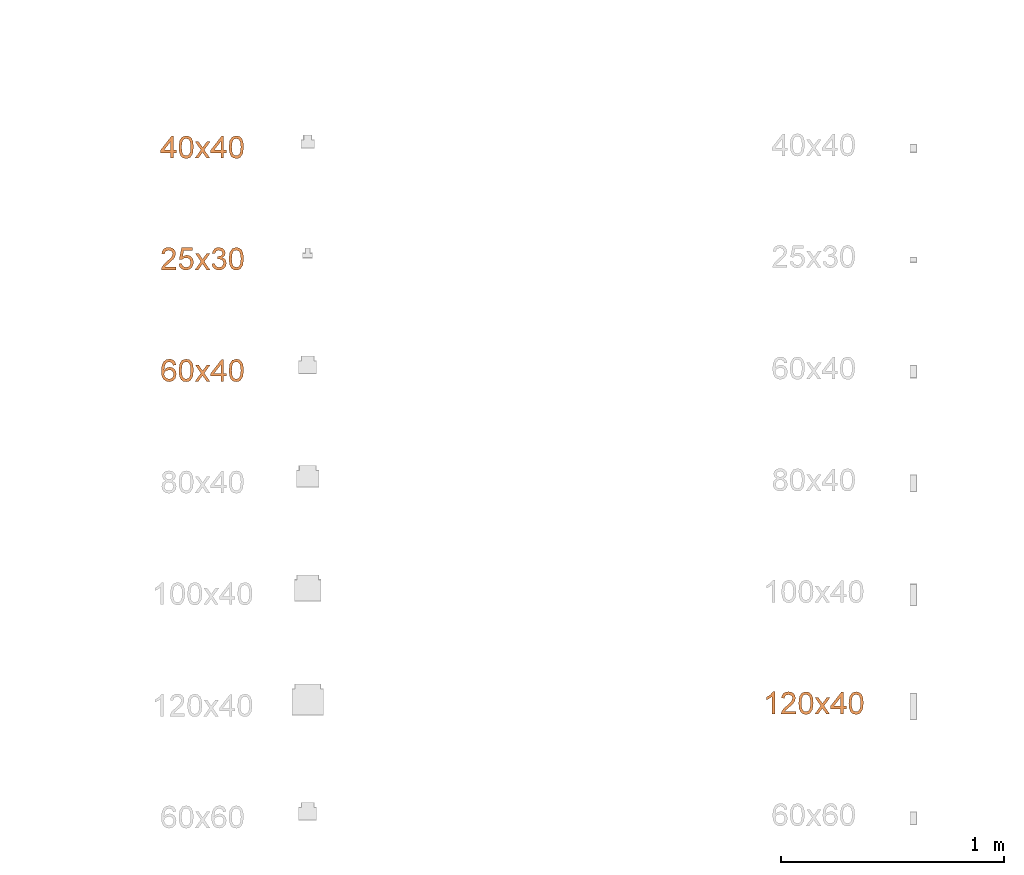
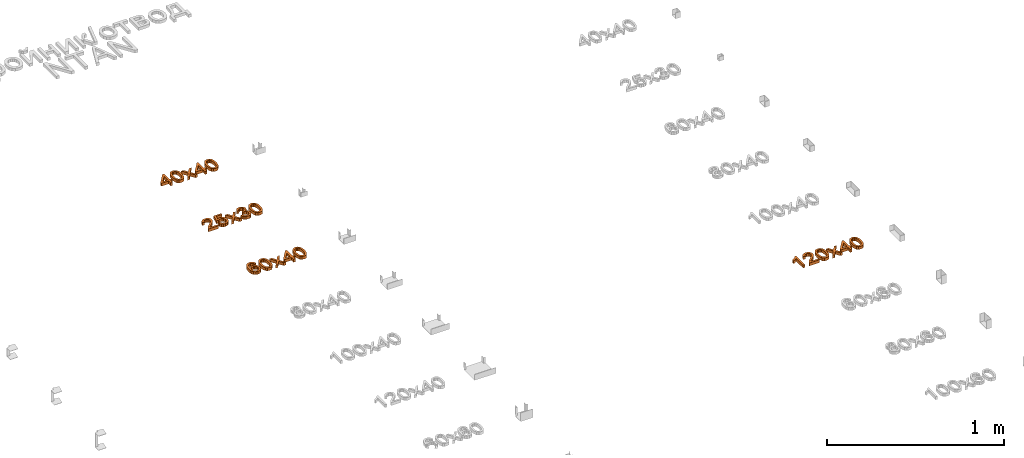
# One storey, part 63 of 71: 4 proxies.
"""IFC2X3 building model written with IfcOpenShell, lengths in millimetres."""

from ifc_helpers import new_model, entity, si_unit, converted_unit, derived_unit, direction, frame, origin, place, context, subcontext, project, spatial, polyline, outline, extrude, element, save


model = new_model("IFC2X3")

# Units and contexts
model_context = context("Model", 3, precision=0.01, world=origin(), true_north=direction((6.12303176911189e-17, 1.0)))
body_context = subcontext(model_context, "Body", "Model", "MODEL_VIEW")
ifc_project = project(units=[si_unit("LENGTHUNIT", "METRE", prefix="MILLI"), si_unit("AREAUNIT", "SQUARE_METRE"), si_unit("VOLUMEUNIT", "CUBIC_METRE"), converted_unit("PLANEANGLEUNIT", "DEGREE", entity("IfcRatioMeasure", 0.0174532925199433), si_unit("PLANEANGLEUNIT", "RADIAN"), dimensions=[0, 0, 0, 0, 0, 0, 0]), si_unit("MASSUNIT", "GRAM", prefix="KILO"), derived_unit("MASSDENSITYUNIT", [(si_unit("MASSUNIT", "GRAM", prefix="KILO"), 1), (si_unit("LENGTHUNIT", "METRE"), -3)]), si_unit("TIMEUNIT", "SECOND"), si_unit("FREQUENCYUNIT", "HERTZ"), si_unit("THERMODYNAMICTEMPERATUREUNIT", "DEGREE_CELSIUS"), derived_unit("THERMALTRANSMITTANCEUNIT", [(si_unit("MASSUNIT", "GRAM", prefix="KILO"), 1), (si_unit("THERMODYNAMICTEMPERATUREUNIT", "KELVIN"), -1), (si_unit("TIMEUNIT", "SECOND"), -3)]), derived_unit("VOLUMETRICFLOWRATEUNIT", [(si_unit("LENGTHUNIT", "METRE"), 3), (si_unit("TIMEUNIT", "SECOND"), -1)]), si_unit("ELECTRICCURRENTUNIT", "AMPERE"), si_unit("ELECTRICVOLTAGEUNIT", "VOLT"), si_unit("POWERUNIT", "WATT"), si_unit("FORCEUNIT", "NEWTON", prefix="KILO"), si_unit("ILLUMINANCEUNIT", "LUX"), si_unit("LUMINOUSFLUXUNIT", "LUMEN"), si_unit("LUMINOUSINTENSITYUNIT", "CANDELA"), derived_unit("USERDEFINED", [(si_unit("MASSUNIT", "GRAM", prefix="KILO"), -1), (si_unit("LENGTHUNIT", "METRE"), -2), (si_unit("TIMEUNIT", "SECOND"), 3), (si_unit("LUMINOUSFLUXUNIT", "LUMEN"), 1)]), derived_unit("LINEARVELOCITYUNIT", [(si_unit("LENGTHUNIT", "METRE"), 1), (si_unit("TIMEUNIT", "SECOND"), -1)]), si_unit("PRESSUREUNIT", "PASCAL"), derived_unit("USERDEFINED", [(si_unit("LENGTHUNIT", "METRE"), -2), (si_unit("MASSUNIT", "GRAM", prefix="KILO"), 1), (si_unit("TIMEUNIT", "SECOND"), -2)])], contexts=[model_context])

# Site, building, storey
site_placement = place(None, origin())
site = spatial("IfcSite", under=ifc_project, at=site_placement, Name="Default", CompositionType="ELEMENT")
building_placement = place(site_placement, origin())
building = spatial("IfcBuilding", under=site, at=building_placement, Name="Наименование здания", CompositionType="ELEMENT")
storey_placement = place(building_placement, origin())
storey = spatial("IfcBuildingStorey", under=building, at=storey_placement, Name="Этаж 01", CompositionType="ELEMENT", Elevation=0.0)

# Proxies
proxy_1_placement = place(storey_placement, origin())
element("IfcBuildingElementProxy", 1, at=proxy_1_placement, inside=storey, Name="Текст модели:100 мм Arial", ObjectType="Текст модели:100 мм Arial", context=body_context, shape_type="SweptSolid", body=[
    extrude(outline(polyline([(-1.14154897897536, -36.3868737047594), (11.4154897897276, -36.3868737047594), (11.4154897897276, -12.8424260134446), (23.9725285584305, -12.8424260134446), (23.9725285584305, -0.285387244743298), (11.4154897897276, -0.285387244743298), (11.4154897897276, 62.4998065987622), (1.99771071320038, 62.4998065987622), (-46.6608145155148, -0.285387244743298), (-46.6608145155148, -12.8424260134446), (-1.14154897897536, -12.8424260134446), (-1.14154897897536, -36.3868737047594)]), holes=[polyline([(-1.14154897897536, -0.285387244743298), (-31.2097707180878, -0.285387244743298), (-1.14154897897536, 38.5139005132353), (-1.14154897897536, -0.285387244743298)])]), frame((21260.8514616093, 3073.05161790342, 0.0)), (0.0, 0.0, 1.0), 20.0),
    extrude(outline(polyline([(-7.02884310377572, -33.3490673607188), (17.532380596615, -33.3490673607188), (35.1984171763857, -27.6137612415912), (43.3439841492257, -18.487651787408), (47.0516941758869, -5.75150665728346), (46.7162020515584, 4.48638208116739), (43.4465778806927, 13.0955287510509), (27.9444305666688, 25.6659118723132), (-0.31433837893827, 32.2325535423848), (-24.0296505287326, 32.3678288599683), (-39.4143020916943, 28.0260881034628), (-49.7293680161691, 18.9002174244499), (-54.443671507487, 4.63998875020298), (-50.8676582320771, -14.1301059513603), (-35.4058547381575, -26.7333390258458), (-7.02884310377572, -33.3490673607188)]), holes=[polyline([(-5.77428774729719, -20.8548320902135), (-25.0157644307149, -17.3562860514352), (-36.7257089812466, -11.57179224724), (-41.0962588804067, -4.77599682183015), (-41.9669219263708, 3.21464792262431), (-39.224425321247, 11.2791292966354), (-32.8654063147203, 17.2229259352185), (-20.9698370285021, 20.2947501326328), (-1.61768958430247, 19.7433141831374), (17.8514140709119, 16.2707701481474), (28.7803640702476, 10.7141596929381), (33.5546988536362, 3.61815959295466), (34.55995686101, -4.47255337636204), (31.9421230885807, -12.1923199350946), (25.8471825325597, -18.1754808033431), (14.0250679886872, -21.4027476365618), (-5.77428774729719, -20.8548320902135)])]), frame((21329.7029366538, 3082.487921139, 0.0), z_axis=(0.0, 0.0, 1.0), x_axis=(0.101851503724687, -0.994799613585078, 0.0)), (0.0, 0.0, 1.0), 20.0),
    extrude(outline(polyline([(-34.5302215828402, -38.4265006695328), (-19.4225343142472, -38.4265006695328), (-0.341721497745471, -12.0616243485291), (2.47870713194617, -16.1328517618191), (17.8561745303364, -38.4265006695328), (32.9638617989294, -38.4265006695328), (7.40832586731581, -1.34399555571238), (33.9448804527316, 35.3461020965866), (18.8371931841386, 35.3461020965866), (4.95577923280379, 16.1671874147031), (0.0261604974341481, 9.34910777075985), (-5.66374769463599, 17.6877663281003), (-17.8529044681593, 35.3461020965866), (-32.9605917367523, 35.3461020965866), (-7.69936140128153, -1.34399555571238), (-34.5302215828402, -38.4265006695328)])), frame((21402.5445935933, 3075.09124486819, 0.0)), (0.0, 0.0, 1.0), 20.0),
    extrude(outline(polyline([(-1.14154897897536, -36.3868737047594), (11.4154897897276, -36.3868737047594), (11.4154897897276, -12.8424260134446), (23.9725285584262, -12.8424260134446), (23.9725285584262, -0.285387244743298), (11.4154897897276, -0.285387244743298), (11.4154897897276, 62.4998065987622), (1.99771071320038, 62.4998065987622), (-46.6608145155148, -0.285387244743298), (-46.6608145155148, -12.8424260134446), (-1.14154897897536, -12.8424260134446), (-1.14154897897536, -36.3868737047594)]), holes=[polyline([(-1.14154897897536, -0.285387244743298), (-31.2097707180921, -0.285387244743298), (-1.14154897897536, 38.5139005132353), (-1.14154897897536, -0.285387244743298)])]), frame((21485.3085295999, 3073.05161790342, 0.0)), (0.0, 0.0, 1.0), 20.0),
    extrude(outline(polyline([(-7.02884310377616, -33.3490673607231), (17.5323805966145, -33.3490673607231), (35.1984171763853, -27.6137612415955), (43.3439841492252, -18.4876517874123), (47.0516941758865, -5.75150665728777), (46.716202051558, 4.48638208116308), (43.4465778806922, 13.0955287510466), (27.9444305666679, 25.6659118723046), (-0.314338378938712, 32.2325535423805), (-24.0296505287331, 32.367828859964), (-39.4143020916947, 28.0260881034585), (-49.7293680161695, 18.9002174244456), (-54.4436715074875, 4.63998875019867), (-50.8676582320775, -14.1301059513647), (-35.405854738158, -26.7333390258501), (-7.02884310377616, -33.3490673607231)]), holes=[polyline([(-5.77428774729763, -20.8548320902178), (-25.0157644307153, -17.3562860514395), (-36.7257089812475, -11.5717922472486), (-41.0962588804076, -4.77599682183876), (-41.9669219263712, 3.21464792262), (-39.2244253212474, 11.2791292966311), (-32.8654063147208, 17.2229259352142), (-20.9698370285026, 20.2947501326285), (-1.61768958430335, 19.7433141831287), (17.8514140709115, 16.2707701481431), (28.7803640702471, 10.7141596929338), (33.5546988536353, 3.61815959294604), (34.5599568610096, -4.47255337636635), (31.9421230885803, -12.192319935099), (25.8471825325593, -18.1754808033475), (14.0250679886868, -21.4027476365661), (-5.77428774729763, -20.8548320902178)])]), frame((21554.1600046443, 3082.487921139, 0.0), z_axis=(0.0, 0.0, 1.0), x_axis=(0.101851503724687, -0.994799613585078, 0.0)), (0.0, 0.0, 1.0), 20.0),
])
proxy_2_placement = place(storey_placement, origin())
element("IfcBuildingElementProxy", 2, at=proxy_2_placement, inside=storey, Name="Текст модели:100 мм Arial", ObjectType="Текст модели:100 мм Arial", context=body_context, shape_type="SweptSolid", body=[
    extrude(outline(polyline([(-32.3858783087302, -45.1669477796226), (-32.3858783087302, -57.7239865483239), (33.5385752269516, -57.7239865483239), (32.1896745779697, -49.0664969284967), (24.5622545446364, -35.7369059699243), (8.84143061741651, -21.1810416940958), (-12.8390816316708, -0.260818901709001), (-18.2592096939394, 13.9639515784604), (-13.1456499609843, 25.4786580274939), (0.208466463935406, 30.1752848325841), (14.1266686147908, 25.5890226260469), (19.4119066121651, 12.9093565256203), (31.9689453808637, 14.4789863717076), (28.9247218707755, 26.6252235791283), (22.3426998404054, 35.4973110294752), (12.5662358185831, 40.9235704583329), (-0.0613136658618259, 42.7323236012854), (-12.7808336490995, 40.7212353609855), (-22.5389035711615, 34.6879706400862), (-28.746912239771, 25.6748617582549), (-30.8162484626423, 14.7242410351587), (-28.5844310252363, 2.81712712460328), (-21.1654774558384, -9.49465698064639), (-3.17604789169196, -26.6992716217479), (11.2694517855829, -38.7780637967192), (16.9348345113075, -45.1669477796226), (-32.3858783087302, -45.1669477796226)])), frame((21250.8684820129, 2594.38873074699, 0.0), z_axis=(0.0, 0.0, -1.0), x_axis=(-1.0, 0.0, 0.0)), (0.0, 0.0, -1.0), 20.0),
    extrude(outline(polyline([(3.81439562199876, -37.2548959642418), (15.7323946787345, -37.2548959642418), (26.1588137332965, -33.0579698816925), (34.2921694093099, -25.0537205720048), (39.3309783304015, -13.63175089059), (40.2219288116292, 1.43409098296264), (34.3991305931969, 14.6815107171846), (25.5350217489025, 23.1481891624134), (13.9054384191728, 28.2770976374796), (0.912111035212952, 29.4702838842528), (-10.7159258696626, 25.7768606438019), (-19.7427074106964, 18.0989984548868), (-24.9322687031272, 7.33886785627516), (-25.5937300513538, -2.21124798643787), (-22.6370240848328, -12.2793380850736), (-47.9924930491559, 0.0204883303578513), (-38.0977082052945, 37.2324069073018), (-50.2330599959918, 40.4592412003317), (-62.7370428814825, -6.56524698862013), (-15.5021967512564, -30.4943712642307), (-10.7584434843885, -18.76237376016), (-14.4216298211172, -10.4922324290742), (-13.6981616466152, 0.722667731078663), (-9.98738154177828, 9.35727561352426), (-4.32553373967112, 14.6878856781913), (11.4370636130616, 15.9400687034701), (19.7481682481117, 12.2772427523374), (25.4355726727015, 6.40632241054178), (28.0665145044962, -1.27212018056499), (27.2082313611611, -10.3575128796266), (19.6530635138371, -21.9256319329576), (5.52431094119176, -24.7161898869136), (3.81439562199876, -37.2548959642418)])), frame((21330.835010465, 2576.60829824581, 0.0), z_axis=(0.0, 0.0, 1.0), x_axis=(0.256974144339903, -0.966418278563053, 0.0)), (0.0, 0.0, 1.0), 20.0),
    extrude(outline(polyline([(-34.5302215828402, -38.4265006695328), (-19.4225343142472, -38.4265006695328), (-0.341721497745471, -12.0616243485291), (2.47870713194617, -16.1328517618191), (17.8561745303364, -38.4265006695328), (32.9638617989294, -38.4265006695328), (7.40832586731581, -1.34399555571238), (33.9448804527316, 35.3461020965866), (18.8371931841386, 35.3461020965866), (4.95577923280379, 16.1671874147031), (0.0261604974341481, 9.34910777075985), (-5.66374769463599, 17.6877663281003), (-17.8529044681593, 35.3461020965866), (-32.9605917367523, 35.3461020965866), (-7.69936140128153, -1.34399555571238), (-34.5302215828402, -38.4265006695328)])), frame((21402.5445935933, 2575.09124486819, 0.0)), (0.0, 0.0, 1.0), 20.0),
    extrude(outline(polyline([(12.9398224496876, -39.4228746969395), (24.7070155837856, -39.4228746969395), (35.2334179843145, -35.1796885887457), (43.5392113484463, -27.2068749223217), (48.6445773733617, -16.0179922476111), (49.9667297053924, -2.46420805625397), (46.1713151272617, 9.8594240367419), (38.2123508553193, 19.5155094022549), (27.0438541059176, 25.0666534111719), (10.0202742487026, 24.7454624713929), (-1.87398827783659, 13.8140826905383), (-7.17156856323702, 25.945232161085), (-17.4163250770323, 32.3622268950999), (-30.6023287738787, 32.1723416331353), (-42.4844766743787, 24.4416767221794), (-49.8086882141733, 10.7455169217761), (-51.0194511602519, -0.289536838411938), (-48.3411699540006, -10.3555163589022), (-41.9598673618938, -18.9246782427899), (-32.0615661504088, -25.4692790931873), (-27.230437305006, -13.7729910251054), (-36.9582136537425, -4.72585730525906), (-37.5811201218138, 7.85403171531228), (-30.7090409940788, 18.2284262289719), (-20.0239599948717, 20.0569105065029), (-14.1616694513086, 16.8110341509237), (-11.0038541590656, 11.0256101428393), (-11.2910014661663, -3.66989129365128), (-11.9642066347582, -5.57066078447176), (-0.222565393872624, -10.2362102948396), (0.778769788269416, -1.38153044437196), (9.50511511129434, 11.0278528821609), (23.513705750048, 13.0140189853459), (35.3107062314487, 3.90868905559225), (37.5820165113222, -3.60465058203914), (36.6502541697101, -12.274956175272), (29.3231481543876, -23.7071568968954), (14.7432148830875, -26.8972714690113), (12.9398224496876, -39.4228746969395)])), frame((21477.9605854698, 2586.24313576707, 0.0), z_axis=(0.0, 0.0, 1.0), x_axis=(0.264175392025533, -0.964474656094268, 0.0)), (0.0, 0.0, 1.0), 20.0),
    extrude(outline(polyline([(-7.02884310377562, -33.3490673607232), (17.5323805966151, -33.3490673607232), (35.1984171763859, -27.6137612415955), (43.3439841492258, -18.4876517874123), (47.051694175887, -5.75150665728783), (46.7162020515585, 4.48638208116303), (43.4465778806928, 13.0955287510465), (27.9444305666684, 25.6659118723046), (-0.314338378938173, 32.2325535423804), (-24.0296505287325, 32.367828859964), (-39.4143020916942, 28.0260881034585), (-49.729368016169, 18.9002174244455), (-54.4436715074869, 4.63998875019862), (-50.867658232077, -14.1301059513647), (-35.4058547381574, -26.7333390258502), (-7.02884310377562, -33.3490673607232)]), holes=[polyline([(-5.77428774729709, -20.8548320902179), (-25.0157644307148, -17.3562860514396), (-36.7257089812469, -11.5717922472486), (-41.096258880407, -4.77599682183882), (-41.9669219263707, 3.21464792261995), (-39.2244253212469, 11.2791292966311), (-32.8654063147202, 17.2229259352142), (-20.969837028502, 20.2947501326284), (-1.61768958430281, 19.7433141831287), (17.851414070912, 16.270770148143), (28.7803640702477, 10.7141596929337), (33.5546988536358, 3.61815959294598), (34.5599568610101, -4.47255337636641), (31.9421230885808, -12.192319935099), (25.8471825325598, -18.1754808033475), (14.0250679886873, -21.4027476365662), (-5.77428774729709, -20.8548320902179)])]), frame((21554.1600046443, 2582.487921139, 0.0), z_axis=(0.0, 0.0, 1.0), x_axis=(0.101851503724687, -0.994799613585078, 0.0)), (0.0, 0.0, 1.0), 20.0),
])
proxy_3_placement = place(storey_placement, origin())
element("IfcBuildingElementProxy", 3, at=proxy_3_placement, inside=storey, Name="Текст модели:100 мм Arial", ObjectType="Текст модели:100 мм Arial", context=body_context, shape_type="SweptSolid", body=[
    extrude(outline(polyline([(6.79275401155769, -32.502776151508), (18.3659045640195, -32.502776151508), (28.1525204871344, -28.8011371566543), (35.6312934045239, -21.7178704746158), (40.2809149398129, -11.5729874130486), (41.4130789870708, 3.23667074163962), (36.1391243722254, 16.3729018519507), (21.8599739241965, 28.880326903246), (-1.50836821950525, 38.2054593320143), (-23.6059131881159, 41.7609274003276), (-39.9814227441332, 38.5965283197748), (-51.1650797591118, 29.9216784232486), (-57.6870671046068, 16.9457940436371), (-57.9805556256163, -0.0494879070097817), (-49.2081886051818, -14.3141019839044), (-33.6167855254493, -22.9350568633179), (-20.6265742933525, -24.2502330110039), (-8.97800352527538, -20.6254922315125), (0.0919027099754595, -13.0350962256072), (5.34612034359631, -2.45330669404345), (5.85483161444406, 11.6447254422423), (-0.843339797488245, 24.991063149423), (19.7707676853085, 15.5765036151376), (28.4840991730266, 4.26766164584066), (28.389351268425, -7.46374532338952), (19.9956250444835, -18.1936336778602), (8.63303585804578, -19.982539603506), (6.79275401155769, -32.502776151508)]), holes=[polyline([(-18.758671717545, 29.9549594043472), (-11.6328110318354, 26.3613362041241), (-6.94154076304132, 20.2038317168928), (-5.85783236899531, 4.13761066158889), (-9.48331864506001, -3.95286412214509), (-15.107739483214, -9.26901644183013), (-22.3091633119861, -11.5969098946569), (-30.6656585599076, -10.7226080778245), (-38.6094491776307, -7.06141592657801), (-43.8637090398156, -1.22509865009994), (-46.1835287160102, 6.17768396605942), (-45.3239987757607, 14.5382721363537), (-39.6901171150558, 24.7221971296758), (-30.0168134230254, 30.0585493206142), (-18.758671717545, 29.9549594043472)])]), frame((21253.7454554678, 2095.21248246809, 0.0), z_axis=(0.0, 0.0, 1.0), x_axis=(-0.267015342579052, 0.963692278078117, 0.0)), (0.0, 0.0, 1.0), 20.0),
    extrude(outline(polyline([(-7.02884310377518, -33.3490673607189), (17.5323805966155, -33.3490673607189), (35.1984171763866, -27.6137612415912), (43.3439841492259, -18.487651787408), (47.0516941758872, -5.75150665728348), (46.716202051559, 4.48638208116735), (43.4465778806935, 13.0955287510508), (27.944430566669, 25.6659118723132), (-0.314338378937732, 32.2325535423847), (-24.0296505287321, 32.3678288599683), (-39.4143020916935, 28.0260881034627), (-49.7293680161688, 18.9002174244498), (-54.4436715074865, 4.63998875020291), (-50.8676582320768, -14.1301059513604), (-35.4058547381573, -26.7333390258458), (-7.02884310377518, -33.3490673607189)]), holes=[polyline([(-5.77428774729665, -20.8548320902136), (-25.0157644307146, -17.3562860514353), (-36.7257089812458, -11.5717922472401), (-41.0962588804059, -4.77599682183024), (-41.9669219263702, 3.21464792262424), (-39.2244253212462, 11.2791292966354), (-32.8654063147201, 17.2229259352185), (-20.9698370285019, 20.2947501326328), (-1.61768958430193, 19.7433141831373), (17.8514140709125, 16.2707701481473), (28.7803640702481, 10.714159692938), (33.554698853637, 3.61815959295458), (34.5599568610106, -4.47255337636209), (31.9421230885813, -12.1923199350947), (25.8471825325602, -18.1754808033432), (14.0250679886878, -21.4027476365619), (-5.77428774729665, -20.8548320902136)])]), frame((21329.7029366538, 2082.487921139, 0.0), z_axis=(0.0, 0.0, 1.0), x_axis=(0.101851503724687, -0.994799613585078, 0.0)), (0.0, 0.0, 1.0), 20.0),
    extrude(outline(polyline([(-34.5302215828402, -38.4265006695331), (-19.4225343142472, -38.4265006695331), (-0.341721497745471, -12.0616243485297), (2.47870713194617, -16.1328517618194), (17.8561745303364, -38.4265006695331), (32.9638617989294, -38.4265006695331), (7.40832586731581, -1.34399555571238), (33.9448804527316, 35.3461020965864), (18.8371931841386, 35.3461020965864), (4.95577923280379, 16.1671874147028), (0.0261604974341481, 9.34910777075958), (-5.66374769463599, 17.6877663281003), (-17.8529044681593, 35.3461020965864), (-32.9605917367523, 35.3461020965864), (-7.69936140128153, -1.34399555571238), (-34.5302215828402, -38.4265006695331)])), frame((21402.5445935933, 2075.09124486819, 0.0)), (0.0, 0.0, 1.0), 20.0),
    extrude(outline(polyline([(-1.14154897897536, -36.3868737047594), (11.4154897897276, -36.3868737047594), (11.4154897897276, -12.8424260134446), (23.9725285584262, -12.8424260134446), (23.9725285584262, -0.285387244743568), (11.4154897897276, -0.285387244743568), (11.4154897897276, 62.4998065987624), (1.99771071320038, 62.4998065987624), (-46.6608145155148, -0.285387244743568), (-46.6608145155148, -12.8424260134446), (-1.14154897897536, -12.8424260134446), (-1.14154897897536, -36.3868737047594)]), holes=[polyline([(-1.14154897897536, -0.285387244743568), (-31.2097707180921, -0.285387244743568), (-1.14154897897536, 38.5139005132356), (-1.14154897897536, -0.285387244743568)])]), frame((21485.3085295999, 2073.05161790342, 0.0)), (0.0, 0.0, 1.0), 20.0),
    extrude(outline(polyline([(-7.02884310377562, -33.3490673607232), (17.5323805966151, -33.3490673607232), (35.1984171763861, -27.6137612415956), (43.3439841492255, -18.4876517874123), (47.0516941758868, -5.75150665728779), (46.7162020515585, 4.48638208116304), (43.446577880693, 13.0955287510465), (27.9444305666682, 25.6659118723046), (-0.314338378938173, 32.2325535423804), (-24.0296505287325, 32.367828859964), (-39.4143020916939, 28.0260881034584), (-49.7293680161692, 18.9002174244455), (-54.4436715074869, 4.63998875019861), (-50.8676582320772, -14.1301059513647), (-35.4058547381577, -26.7333390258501), (-7.02884310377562, -33.3490673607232)]), holes=[polyline([(-5.77428774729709, -20.8548320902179), (-25.015764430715, -17.3562860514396), (-36.7257089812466, -11.5717922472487), (-41.0962588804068, -4.77599682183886), (-41.9669219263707, 3.21464792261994), (-39.2244253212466, 11.279129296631), (-32.8654063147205, 17.2229259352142), (-20.9698370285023, 20.2947501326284), (-1.61768958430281, 19.7433141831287), (17.851414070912, 16.270770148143), (28.7803640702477, 10.7141596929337), (33.5546988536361, 3.61815959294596), (34.5599568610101, -4.4725533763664), (31.9421230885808, -12.192319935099), (25.8471825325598, -18.1754808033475), (14.0250679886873, -21.4027476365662), (-5.77428774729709, -20.8548320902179)])]), frame((21554.1600046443, 2082.487921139, 0.0), z_axis=(0.0, 0.0, 1.0), x_axis=(0.101851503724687, -0.994799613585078, 0.0)), (0.0, 0.0, 1.0), 20.0),
])
proxy_4_placement = place(storey_placement, origin())
element("IfcBuildingElementProxy", 4, at=proxy_4_placement, inside=storey, Name="Текст модели:100 мм Arial", ObjectType="Текст модели:100 мм Arial", context=body_context, shape_type="SweptSolid", body=[
    extrude(outline(polyline([(-63.8793021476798, -16.9184842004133), (36.5770080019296, -16.9184842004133), (36.5770080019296, -8.82508030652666), (23.2106288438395, 2.34626961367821), (11.4629304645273, 20.7526321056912), (-0.407395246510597, 20.7526321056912), (5.93243780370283, 7.53340574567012), (14.4059864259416, -4.3614454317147), (-63.8793021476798, -4.3614454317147), (-63.8793021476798, -16.9184842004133)])), frame((23948.1263490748, 610.544046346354, 0.0), z_axis=(0.0, 0.0, 1.0), x_axis=(0.0, 1.0, 0.0)), (0.0, 0.0, 1.0), 20.0),
    extrude(outline(polyline([(-32.3858783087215, -45.1669477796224), (-32.3858783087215, -57.7239865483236), (33.5385752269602, -57.7239865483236), (32.1896745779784, -49.0664969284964), (24.5622545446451, -35.736905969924), (8.84143061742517, -21.1810416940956), (-12.8390816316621, -0.260818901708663), (-18.259209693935, 13.9639515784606), (-13.1456499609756, 25.4786580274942), (0.208466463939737, 30.1752848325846), (14.1266686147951, 25.5890226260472), (19.4119066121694, 12.9093565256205), (31.9689453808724, 14.4789863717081), (28.9247218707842, 26.6252235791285), (22.3426998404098, 35.4973110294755), (12.5662358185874, 40.9235704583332), (-0.061313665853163, 42.7323236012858), (-12.7808336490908, 40.721235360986), (-22.5389035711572, 34.6879706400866), (-28.7469122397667, 25.6748617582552), (-30.8162484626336, 14.7242410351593), (-28.5844310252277, 2.81712712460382), (-21.1654774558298, -9.49465698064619), (-3.1760478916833, -26.6992716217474), (11.2694517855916, -38.7780637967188), (16.9348345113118, -45.1669477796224), (-32.3858783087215, -45.1669477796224)])), frame((24026.8367457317, 604.388730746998, 0.0), z_axis=(0.0, 0.0, -1.0), x_axis=(-1.0, 0.0, 0.0)), (0.0, 0.0, -1.0), 20.0),
    extrude(outline(polyline([(-7.0288431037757, -33.3490673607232), (17.5323805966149, -33.3490673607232), (35.198417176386, -27.6137612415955), (43.343984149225, -18.4876517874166), (47.0516941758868, -5.75150665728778), (46.7162020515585, 4.48638208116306), (43.446577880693, 13.0955287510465), (27.9444305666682, 25.6659118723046), (-0.31433837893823, 32.2325535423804), (-24.0296505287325, 32.3678288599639), (-39.4143020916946, 28.0260881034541), (-49.7293680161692, 18.9002174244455), (-54.443671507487, 4.6399887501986), (-50.8676582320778, -14.130105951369), (-35.4058547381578, -26.7333390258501), (-7.0288431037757, -33.3490673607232)]), holes=[polyline([(-5.77428774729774, -20.8548320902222), (-25.0157644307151, -17.3562860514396), (-36.7257089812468, -11.5717922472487), (-41.0962588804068, -4.77599682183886), (-41.9669219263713, 3.21464792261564), (-39.2244253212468, 11.2791292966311), (-32.8654063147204, 17.2229259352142), (-20.9698370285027, 20.2947501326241), (-1.61768958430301, 19.7433141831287), (17.851414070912, 16.270770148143), (28.7803640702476, 10.7141596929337), (33.554698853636, 3.61815959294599), (34.55995686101, -4.47255337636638), (31.9421230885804, -12.1923199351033), (25.8471825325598, -18.1754808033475), (14.0250679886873, -21.4027476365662), (-5.77428774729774, -20.8548320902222)])]), frame((24105.6712003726, 592.487921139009, 0.0), z_axis=(0.0, 0.0, 1.0), x_axis=(0.101851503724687, -0.994799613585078, 0.0)), (0.0, 0.0, 1.0), 20.0),
    extrude(outline(polyline([(-34.5302215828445, -38.4265006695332), (-19.4225343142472, -38.4265006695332), (-0.341721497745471, -12.0616243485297), (2.47870713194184, -16.1328517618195), (17.8561745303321, -38.4265006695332), (32.9638617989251, -38.4265006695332), (7.40832586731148, -1.34399555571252), (33.9448804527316, 35.3461020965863), (18.8371931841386, 35.3461020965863), (4.95577923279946, 16.1671874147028), (0.0261604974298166, 9.34910777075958), (-5.66374769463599, 17.6877663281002), (-17.8529044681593, 35.3461020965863), (-32.9605917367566, 35.3461020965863), (-7.69936140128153, -1.34399555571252), (-34.5302215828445, -38.4265006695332)])), frame((24178.512857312, 585.091244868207, 0.0)), (0.0, 0.0, 1.0), 20.0),
    extrude(outline(polyline([(-1.14154897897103, -36.3868737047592), (11.4154897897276, -36.3868737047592), (11.4154897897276, -12.8424260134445), (23.9725285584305, -12.8424260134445), (23.9725285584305, -0.285387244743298), (11.4154897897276, -0.285387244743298), (11.4154897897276, 62.4998065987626), (1.99771071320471, 62.4998065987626), (-46.6608145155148, -0.285387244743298), (-46.6608145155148, -12.8424260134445), (-1.14154897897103, -12.8424260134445), (-1.14154897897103, -36.3868737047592)]), holes=[polyline([(-1.14154897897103, -0.285387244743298), (-31.2097707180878, -0.285387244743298), (-1.14154897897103, 38.5139005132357), (-1.14154897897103, -0.285387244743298)])]), frame((24261.2767933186, 583.051617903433, 0.0)), (0.0, 0.0, 1.0), 20.0),
    extrude(outline(polyline([(-7.02884310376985, -33.3490673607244), (17.5323805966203, -33.3490673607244), (35.1984171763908, -27.6137612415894), (43.3439841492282, -18.4876517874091), (47.0516941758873, -5.75150665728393), (46.7162020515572, 4.48638208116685), (43.4465778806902, 13.0955287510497), (27.9444305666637, 25.6659118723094), (-0.314338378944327, 32.232553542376), (-24.0296505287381, 32.3678288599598), (-39.4143020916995, 28.0260881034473), (-49.7293680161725, 18.9002174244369), (-54.4436715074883, 4.63998875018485), (-50.8676582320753, -14.1301059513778), (-35.4058547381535, -26.7333390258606), (-7.02884310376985, -33.3490673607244)]), holes=[polyline([(-5.77428774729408, -20.8548320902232), (-25.0157644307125, -17.3562860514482), (-36.7257089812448, -11.571792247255), (-41.096258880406, -4.77599682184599), (-41.9669219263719, 3.21464792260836), (-39.2244253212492, 11.2791292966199), (-32.8654063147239, 17.2229259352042), (-20.9698370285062, 20.2947501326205), (-1.61768958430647, 19.7433141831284), (17.8514140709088, 16.2707701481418), (28.7803640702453, 10.7141596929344), (33.5546988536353, 3.61815959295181), (34.5599568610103, -4.47255337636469), (31.9421230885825, -12.1923199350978), (25.847182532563, -18.175480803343), (14.025067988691, -21.4027476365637), (-5.77428774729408, -20.8548320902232)])]), frame((24330.1282683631, 592.487921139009, 0.0), z_axis=(0.0, 0.0, 1.0), x_axis=(0.101851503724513, -0.994799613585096, 0.0)), (0.0, 0.0, 1.0), 20.0),
])

save(model, "model.ifc")
